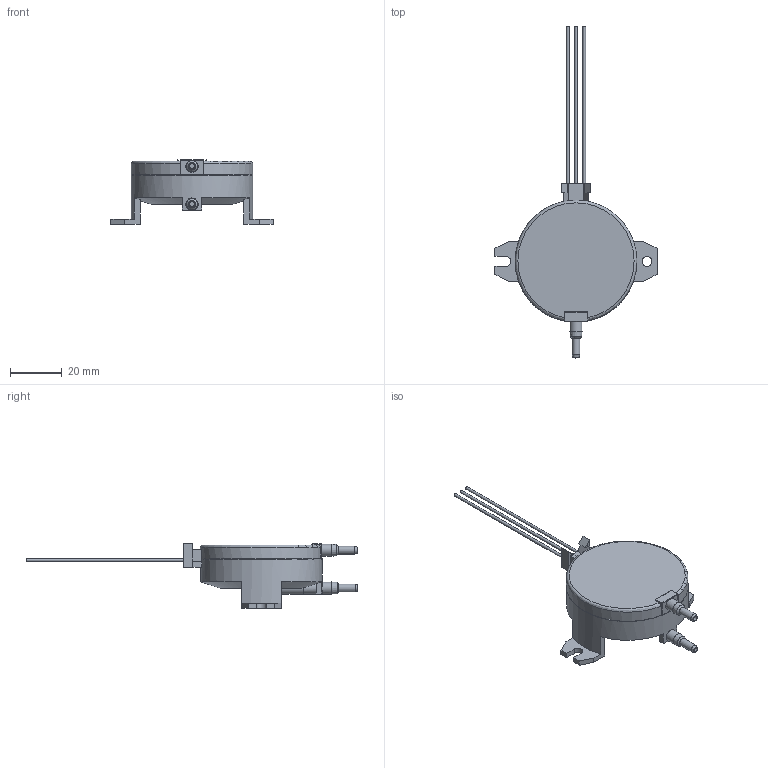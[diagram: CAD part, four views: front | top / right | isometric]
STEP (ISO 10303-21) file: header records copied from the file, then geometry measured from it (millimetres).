
FILE_DESCRIPTION(/* description */ (''),/* implementation_level */ '2;1');
FILE_NAME(/* name */ 'D:\MCS - SERVER ORGANIZATION\Drawings - Mcs Hardware\Boards & Electrical Parts\MCS-STATIC-5-B\MCS-STATIC-5-B.stp',/* time_stamp */ '2015-10-06T10:35:10-04:00',/* author */ ('Ian L Mitchell'),/* organization */ (''),/* preprocessor_version */ 'ST-DEVELOPER v15.2',/* originating_system */ 'Autodesk Inventor 2014',/* authorisation */ '');
FILE_SCHEMA (('AUTOMOTIVE_DESIGN { 1 0 10303 214 3 1 1 }'));
Length unit declared in the file: inch
Products named in the file (1): MCS-STATIC-5-B
Bounding box: 62.6 x 128.08 x 24.96 mm (x, y, z)
Volume: 19072.9 mm3; surface area: 19448.1 mm2
Topology: 7 solids, 7 shells, 131 faces, 319 edges, 207 vertices
Faces by surface type: plane 89, cylinder 31, cone 7, bspline 2, torus 1, sphere 1
Full cylindrical faces by diameter (mm): 1.079 x1, 1.08 x2, 1.905 x2, 2.984 x1, 2.985 x1, 3.81 x1, 4.572 x2, 43.815 x1, 45.72 x1, 46.99 x1
Entity records: 4000 total; most frequent: CARTESIAN_POINT 951, DIRECTION 612, ORIENTED_EDGE 590, EDGE_CURVE 295, AXIS2_PLACEMENT_3D 212, VERTEX_POINT 202, LINE 188, VECTOR 188
